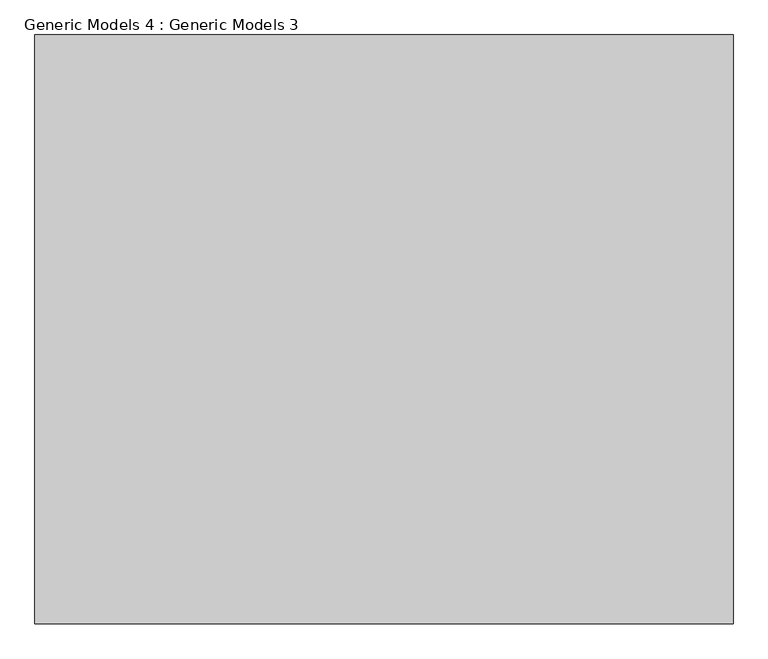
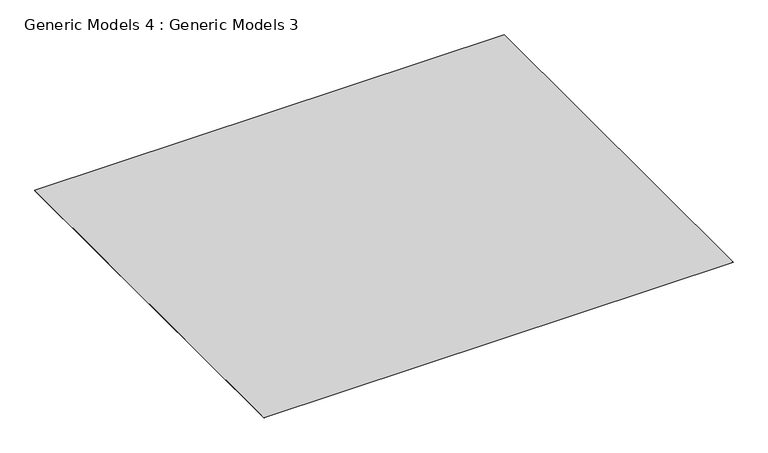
"""IFC4 building model written with IfcOpenShell, lengths in millimetres: proxy geometry, Generic Models 4 : Generic Models 3."""

from ifc_helpers import new_model, si_unit, origin, origin_with_axes, place, context, project, spatial, polyline, outline, extrude, source, transform, mapped, element, save


def generic_models_4_generic_models_3_3aa5123b(model_context):
    return source(origin(), model_context, "Body", "SweptSolid", [
        extrude(outline(polyline([(12765.1996652, 77.4932205), (12765.1996652, -8946.7465809), (2065.1996652, -8946.7465809), (2065.1996652, 77.4932205), (12765.1996652, 77.4932205)])), origin_with_axes(), (0.0, 0.0, 1.0), 10.0),
    ])


if __name__ == "__main__":
    model = new_model("IFC4")
    model_context = context("Model", 3, world=origin())
    ifc_project = project(units=[si_unit("LENGTHUNIT", "METRE", prefix="MILLI")], contexts=[model_context])
    site = spatial("IfcSite", under=ifc_project)
    building = spatial("IfcBuilding", under=site)
    placement = place(None, origin())
    generic_models_4_generic_models_3_shape = generic_models_4_generic_models_3_3aa5123b(model_context)
    element("IfcBuildingElementProxy", 1, Name="Generic Models 4 : Generic Models 3", ObjectType="Generic Models 4 : Generic Models 3", at=placement, inside=building, context=model_context, shape_type="MappedRepresentation", body=[
        mapped(generic_models_4_generic_models_3_shape, transform((0.0, 0.0, 0.0), x_axis=(1.0, 0.0, 0.0), y_axis=(0.0, 1.0, 0.0), z_axis=(0.0, 0.0, 1.0))),
    ])
    save(model, "model.ifc")
